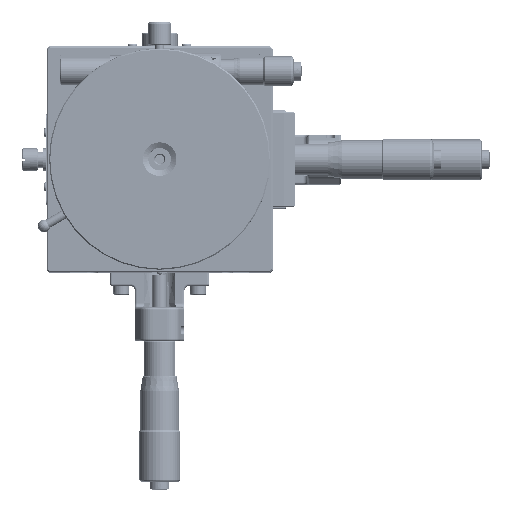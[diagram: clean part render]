
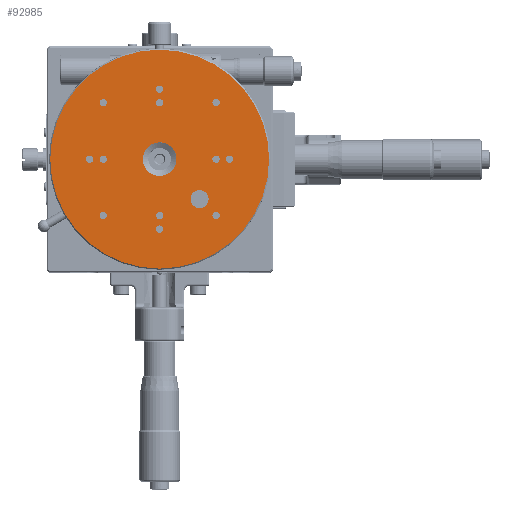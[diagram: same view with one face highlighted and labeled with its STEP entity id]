
A CAD part, top view. The second image highlights one B-rep face of the part: STEP entity #92985.
In plain terms, the highlighted planar face has unit normal (0, 0, 1).
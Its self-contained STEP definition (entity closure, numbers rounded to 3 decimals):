
#92815=CARTESIAN_POINT('',(0.0,24.5,0.0));
#92816=DIRECTION('',(0.0,0.0,1.0));
#92817=DIRECTION('',(1.0,0.0,0.0));
#92818=AXIS2_PLACEMENT_3D('',#92815,#92816,#92817);
#92819=PLANE('',#92818);
#92820=CARTESIAN_POINT('',(0.,48.5,0.));
#92821=VERTEX_POINT('',#92820);
#92822=CARTESIAN_POINT('',(0.0,0.,0.));
#92823=DIRECTION('',(0.0,0.0,-1.0));
#92824=DIRECTION('',(0.0,-1.0,0.0));
#92825=AXIS2_PLACEMENT_3D('',#92822,#92823,#92824);
#92826=CIRCLE('',#92825,48.5);
#92827=EDGE_CURVE('',#92821,#92821,#92826,.T.);
#92828=ORIENTED_EDGE('',*,*,#92827,.F.);
#92829=EDGE_LOOP('',(#92828));
#92830=FACE_OUTER_BOUND('',#92829,.T.);
#92831=CARTESIAN_POINT('',(31.0,-1.621,0.));
#92832=VERTEX_POINT('',#92831);
#92833=CARTESIAN_POINT('',(31.0,0.,0.0));
#92834=DIRECTION('',(0.0,0.0,-1.0));
#92835=DIRECTION('',(0.0,-1.0,0.0));
#92836=AXIS2_PLACEMENT_3D('',#92833,#92834,#92835);
#92837=CIRCLE('',#92836,1.621);
#92838=EDGE_CURVE('',#92832,#92832,#92837,.T.);
#92839=ORIENTED_EDGE('',*,*,#92838,.T.);
#92840=EDGE_LOOP('',(#92839));
#92841=FACE_BOUND('',#92840,.T.);
#92842=CARTESIAN_POINT('',(-1.621,-31.0,0.));
#92843=VERTEX_POINT('',#92842);
#92844=CARTESIAN_POINT('',(0.,-31.0,0.));
#92845=DIRECTION('',(0.0,0.0,-1.0));
#92846=DIRECTION('',(-1.0,0.0,0.0));
#92847=AXIS2_PLACEMENT_3D('',#92844,#92845,#92846);
#92848=CIRCLE('',#92847,1.621);
#92849=EDGE_CURVE('',#92843,#92843,#92848,.T.);
#92850=ORIENTED_EDGE('',*,*,#92849,.T.);
#92851=EDGE_LOOP('',(#92850));
#92852=FACE_BOUND('',#92851,.T.);
#92853=CARTESIAN_POINT('',(-31.0,1.621,0.));
#92854=VERTEX_POINT('',#92853);
#92855=CARTESIAN_POINT('',(-31.0,0.,0.0));
#92856=DIRECTION('',(0.0,0.0,-1.0));
#92857=DIRECTION('',(0.0,1.0,0.0));
#92858=AXIS2_PLACEMENT_3D('',#92855,#92856,#92857);
#92859=CIRCLE('',#92858,1.621);
#92860=EDGE_CURVE('',#92854,#92854,#92859,.T.);
#92861=ORIENTED_EDGE('',*,*,#92860,.T.);
#92862=EDGE_LOOP('',(#92861));
#92863=FACE_BOUND('',#92862,.T.);
#92864=CARTESIAN_POINT('',(1.621,31.0,0.));
#92865=VERTEX_POINT('',#92864);
#92866=CARTESIAN_POINT('',(0.0,31.0,0.0));
#92867=DIRECTION('',(0.0,0.0,-1.0));
#92868=DIRECTION('',(1.0,0.0,0.0));
#92869=AXIS2_PLACEMENT_3D('',#92866,#92867,#92868);
#92870=CIRCLE('',#92869,1.621);
#92871=EDGE_CURVE('',#92865,#92865,#92870,.T.);
#92872=ORIENTED_EDGE('',*,*,#92871,.T.);
#92873=EDGE_LOOP('',(#92872));
#92874=FACE_BOUND('',#92873,.T.);
#92875=CARTESIAN_POINT('',(25.,-26.621,0.));
#92876=VERTEX_POINT('',#92875);
#92877=CARTESIAN_POINT('',(25.,-25.,0.0));
#92878=DIRECTION('',(0.0,0.0,-1.0));
#92879=DIRECTION('',(0.0,-1.0,0.0));
#92880=AXIS2_PLACEMENT_3D('',#92877,#92878,#92879);
#92881=CIRCLE('',#92880,1.621);
#92882=EDGE_CURVE('',#92876,#92876,#92881,.T.);
#92883=ORIENTED_EDGE('',*,*,#92882,.T.);
#92884=EDGE_LOOP('',(#92883));
#92885=FACE_BOUND('',#92884,.T.);
#92886=CARTESIAN_POINT('',(25.0,-1.621,0.));
#92887=VERTEX_POINT('',#92886);
#92888=CARTESIAN_POINT('',(25.0,0.,0.0));
#92889=DIRECTION('',(0.0,0.0,-1.0));
#92890=DIRECTION('',(0.0,-1.0,0.0));
#92891=AXIS2_PLACEMENT_3D('',#92888,#92889,#92890);
#92892=CIRCLE('',#92891,1.621);
#92893=EDGE_CURVE('',#92887,#92887,#92892,.T.);
#92894=ORIENTED_EDGE('',*,*,#92893,.T.);
#92895=EDGE_LOOP('',(#92894));
#92896=FACE_BOUND('',#92895,.T.);
#92897=CARTESIAN_POINT('',(-26.621,-25.0,0.));
#92898=VERTEX_POINT('',#92897);
#92899=CARTESIAN_POINT('',(-25.0,-25.0,0.0));
#92900=DIRECTION('',(0.0,0.0,-1.0));
#92901=DIRECTION('',(-1.0,0.0,0.0));
#92902=AXIS2_PLACEMENT_3D('',#92899,#92900,#92901);
#92903=CIRCLE('',#92902,1.621);
#92904=EDGE_CURVE('',#92898,#92898,#92903,.T.);
#92905=ORIENTED_EDGE('',*,*,#92904,.T.);
#92906=EDGE_LOOP('',(#92905));
#92907=FACE_BOUND('',#92906,.T.);
#92908=CARTESIAN_POINT('',(-1.621,-25.0,0.));
#92909=VERTEX_POINT('',#92908);
#92910=CARTESIAN_POINT('',(0.,-25.0,0.0));
#92911=DIRECTION('',(0.0,0.0,-1.0));
#92912=DIRECTION('',(-1.0,0.0,0.0));
#92913=AXIS2_PLACEMENT_3D('',#92910,#92911,#92912);
#92914=CIRCLE('',#92913,1.621);
#92915=EDGE_CURVE('',#92909,#92909,#92914,.T.);
#92916=ORIENTED_EDGE('',*,*,#92915,.T.);
#92917=EDGE_LOOP('',(#92916));
#92918=FACE_BOUND('',#92917,.T.);
#92919=CARTESIAN_POINT('',(-25.0,26.621,0.));
#92920=VERTEX_POINT('',#92919);
#92921=CARTESIAN_POINT('',(-25.0,25.0,0.0));
#92922=DIRECTION('',(0.0,0.0,-1.0));
#92923=DIRECTION('',(0.0,1.0,0.0));
#92924=AXIS2_PLACEMENT_3D('',#92921,#92922,#92923);
#92925=CIRCLE('',#92924,1.621);
#92926=EDGE_CURVE('',#92920,#92920,#92925,.T.);
#92927=ORIENTED_EDGE('',*,*,#92926,.T.);
#92928=EDGE_LOOP('',(#92927));
#92929=FACE_BOUND('',#92928,.T.);
#92930=CARTESIAN_POINT('',(-25.0,1.621,0.));
#92931=VERTEX_POINT('',#92930);
#92932=CARTESIAN_POINT('',(-25.0,0.,0.0));
#92933=DIRECTION('',(0.0,0.0,-1.0));
#92934=DIRECTION('',(0.0,1.0,0.0));
#92935=AXIS2_PLACEMENT_3D('',#92932,#92933,#92934);
#92936=CIRCLE('',#92935,1.621);
#92937=EDGE_CURVE('',#92931,#92931,#92936,.T.);
#92938=ORIENTED_EDGE('',*,*,#92937,.T.);
#92939=EDGE_LOOP('',(#92938));
#92940=FACE_BOUND('',#92939,.T.);
#92941=CARTESIAN_POINT('',(26.621,25.0,0.));
#92942=VERTEX_POINT('',#92941);
#92943=CARTESIAN_POINT('',(25.0,25.0,0.0));
#92944=DIRECTION('',(0.0,0.0,-1.0));
#92945=DIRECTION('',(1.0,0.0,0.0));
#92946=AXIS2_PLACEMENT_3D('',#92943,#92944,#92945);
#92947=CIRCLE('',#92946,1.621);
#92948=EDGE_CURVE('',#92942,#92942,#92947,.T.);
#92949=ORIENTED_EDGE('',*,*,#92948,.T.);
#92950=EDGE_LOOP('',(#92949));
#92951=FACE_BOUND('',#92950,.T.);
#92952=CARTESIAN_POINT('',(1.621,25.0,0.));
#92953=VERTEX_POINT('',#92952);
#92954=CARTESIAN_POINT('',(0.0,25.0,0.0));
#92955=DIRECTION('',(0.0,0.0,-1.0));
#92956=DIRECTION('',(1.0,0.0,0.0));
#92957=AXIS2_PLACEMENT_3D('',#92954,#92955,#92956);
#92958=CIRCLE('',#92957,1.621);
#92959=EDGE_CURVE('',#92953,#92953,#92958,.T.);
#92960=ORIENTED_EDGE('',*,*,#92959,.T.);
#92961=EDGE_LOOP('',(#92960));
#92962=FACE_BOUND('',#92961,.T.);
#92963=CARTESIAN_POINT('',(-13.678,17.678,0.));
#92964=VERTEX_POINT('',#92963);
#92965=CARTESIAN_POINT('',(-17.678,17.678,0.0));
#92966=DIRECTION('',(0.0,0.0,-1.0));
#92967=DIRECTION('',(1.0,0.0,0.0));
#92968=AXIS2_PLACEMENT_3D('',#92965,#92966,#92967);
#92969=CIRCLE('',#92968,4.0);
#92970=EDGE_CURVE('',#92964,#92964,#92969,.T.);
#92971=ORIENTED_EDGE('',*,*,#92970,.T.);
#92972=EDGE_LOOP('',(#92971));
#92973=FACE_BOUND('',#92972,.T.);
#92974=CARTESIAN_POINT('',(7.459,0.,0.));
#92975=VERTEX_POINT('',#92974);
#92976=CARTESIAN_POINT('',(0.0,0.,0.));
#92977=DIRECTION('',(0.0,0.0,-1.0));
#92978=DIRECTION('',(1.0,0.0,0.0));
#92979=AXIS2_PLACEMENT_3D('',#92976,#92977,#92978);
#92980=CIRCLE('',#92979,7.459);
#92981=EDGE_CURVE('',#92975,#92975,#92980,.T.);
#92982=ORIENTED_EDGE('',*,*,#92981,.T.);
#92983=EDGE_LOOP('',(#92982));
#92984=FACE_BOUND('',#92983,.T.);
#92985=ADVANCED_FACE('',(#92830,#92841,#92852,#92863,#92874,#92885,#92896,#92907,#92918,#92929,#92940,#92951,#92962,#92973,#92984),#92819,.T.);
